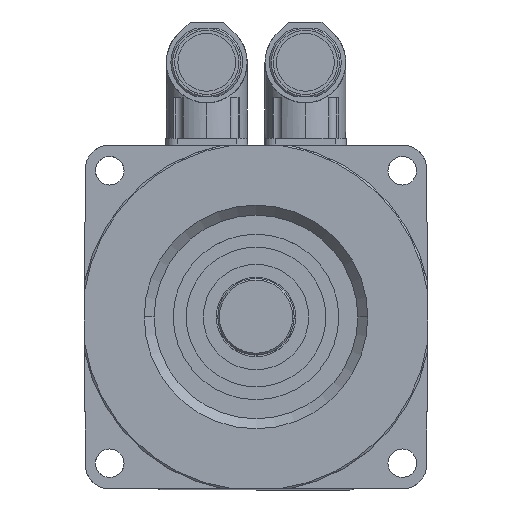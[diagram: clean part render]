
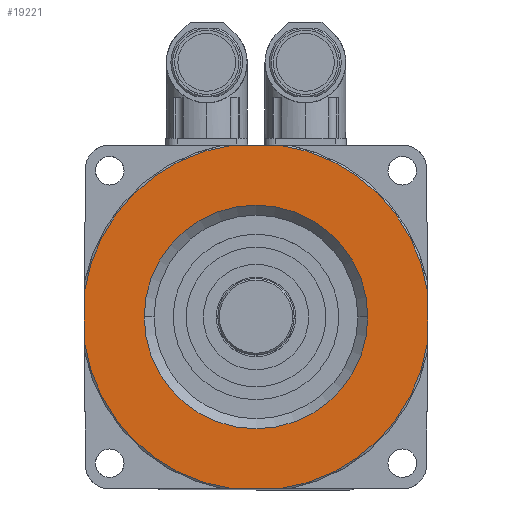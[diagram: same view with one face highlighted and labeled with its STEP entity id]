
A CAD part, top view. The second image highlights one B-rep face of the part: STEP entity #19221.
In plain terms, the highlighted planar face has unit normal (0, 0, 1).
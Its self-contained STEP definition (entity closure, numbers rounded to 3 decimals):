
#8572 = VERTEX_POINT ( 'NONE', #29026 ) ;
#8708 = EDGE_CURVE ( 'NONE', #8572, #8709, #29742, .T. ) ;
#8709 = VERTEX_POINT ( 'NONE', #29734 ) ;
#19166 = ORIENTED_EDGE ( 'NONE', *, *, #19167, .T. ) ;
#19167 = EDGE_CURVE ( 'NONE', #19197, #19198, #20303, .T. ) ;
#19168 = ORIENTED_EDGE ( 'NONE', *, *, #19169, .T. ) ;
#19169 = EDGE_CURVE ( 'NONE', #19198, #19170, #20353, .T. ) ;
#19170 = VERTEX_POINT ( 'NONE', #20348 ) ;
#19171 = ORIENTED_EDGE ( 'NONE', *, *, #19172, .T. ) ;
#19172 = EDGE_CURVE ( 'NONE', #19170, #19173, #20347, .T. ) ;
#19173 = VERTEX_POINT ( 'NONE', #20343 ) ;
#19174 = ORIENTED_EDGE ( 'NONE', *, *, #19175, .T. ) ;
#19175 = EDGE_CURVE ( 'NONE', #19173, #19176, #20341, .T. ) ;
#19176 = VERTEX_POINT ( 'NONE', #20342 ) ;
#19177 = ORIENTED_EDGE ( 'NONE', *, *, #19178, .T. ) ;
#19178 = EDGE_CURVE ( 'NONE', #19176, #19224, #20335, .T. ) ;
#19179 = EDGE_LOOP ( 'NONE', ( #19180, #19201 ) ) ;
#19180 = ORIENTED_EDGE ( 'NONE', *, *, #19200, .F. ) ;
#19193 = EDGE_CURVE ( 'NONE', #19231, #19194, #20361, .T. ) ;
#19194 = VERTEX_POINT ( 'NONE', #20420 ) ;
#19195 = ORIENTED_EDGE ( 'NONE', *, *, #19196, .T. ) ;
#19196 = EDGE_CURVE ( 'NONE', #19194, #19197, #20419, .T. ) ;
#19197 = VERTEX_POINT ( 'NONE', #20415 ) ;
#19198 = VERTEX_POINT ( 'NONE', #20414 ) ;
#19200 = EDGE_CURVE ( 'NONE', #8709, #8572, #20411, .T. ) ;
#19201 = ORIENTED_EDGE ( 'NONE', *, *, #8708, .F. ) ;
#19221 = ADVANCED_FACE ( 'NONE', ( #20447, #20446 ), #20493, .T. ) ;
#19222 = ORIENTED_EDGE ( 'NONE', *, *, #19223, .T. ) ;
#19223 = EDGE_CURVE ( 'NONE', #19224, #19225, #20488, .T. ) ;
#19224 = VERTEX_POINT ( 'NONE', #20484 ) ;
#19225 = VERTEX_POINT ( 'NONE', #20483 ) ;
#19226 = ORIENTED_EDGE ( 'NONE', *, *, #19227, .T. ) ;
#19227 = EDGE_CURVE ( 'NONE', #19225, #19228, #20482, .T. ) ;
#19228 = VERTEX_POINT ( 'NONE', #20477 ) ;
#19229 = ORIENTED_EDGE ( 'NONE', *, *, #19230, .T. ) ;
#19230 = EDGE_CURVE ( 'NONE', #19228, #19231, #20476, .T. ) ;
#19231 = VERTEX_POINT ( 'NONE', #20472 ) ;
#19232 = ORIENTED_EDGE ( 'NONE', *, *, #19193, .T. ) ;
#19247 = EDGE_LOOP ( 'NONE', ( #19222, #19226, #19229, #19232, #19195, #19166, #19168, #19171, #19174, #19177 ) ) ;
#20302 = CARTESIAN_POINT ( 'NONE',  ( -53.983, 0., 1.94 ) ) ;
#20303 = LINE ( 'NONE', #20302, #20355 ) ;
#20332 = DIRECTION ( 'NONE',  ( 0.009, 1., 0. ) ) ;
#20333 = VECTOR ( 'NONE', #20332, 1000. ) ;
#20334 = CARTESIAN_POINT ( 'NONE',  ( 53.512, -54., 1.94 ) ) ;
#20335 = LINE ( 'NONE', #20334, #20333 ) ;
#20337 = DIRECTION ( 'NONE',  ( 1., 0., 0. ) ) ;
#20338 = DIRECTION ( 'NONE',  ( 0., 0., 1. ) ) ;
#20339 = CARTESIAN_POINT ( 'NONE',  ( 0., 0., 1.94 ) ) ;
#20340 = AXIS2_PLACEMENT_3D ( 'NONE', #20339, #20338, #20337 ) ;
#20341 = CIRCLE ( 'NONE', #20340, 54.5 ) ;
#20342 = CARTESIAN_POINT ( 'NONE',  ( 53.913, -7.974, 1.94 ) ) ;
#20343 = CARTESIAN_POINT ( 'NONE',  ( 7.489, -53.983, 1.94 ) ) ;
#20344 = DIRECTION ( 'NONE',  ( 1., 0., 0. ) ) ;
#20345 = VECTOR ( 'NONE', #20344, 1000. ) ;
#20346 = CARTESIAN_POINT ( 'NONE',  ( -53.529, -53.983, 1.94 ) ) ;
#20347 = LINE ( 'NONE', #20346, #20345 ) ;
#20348 = CARTESIAN_POINT ( 'NONE',  ( -7.489, -53.983, 1.94 ) ) ;
#20349 = DIRECTION ( 'NONE',  ( 1., 0., 0. ) ) ;
#20350 = DIRECTION ( 'NONE',  ( 0., 0., 1. ) ) ;
#20351 = CARTESIAN_POINT ( 'NONE',  ( 0., 0., 1.94 ) ) ;
#20352 = AXIS2_PLACEMENT_3D ( 'NONE', #20351, #20350, #20349 ) ;
#20353 = CIRCLE ( 'NONE', #20352, 54.5 ) ;
#20354 = DIRECTION ( 'NONE',  ( 0.009, -1., 0. ) ) ;
#20355 = VECTOR ( 'NONE', #20354, 1000. ) ;
#20357 = DIRECTION ( 'NONE',  ( 1., 0., 0. ) ) ;
#20358 = DIRECTION ( 'NONE',  ( 0., 0., 1. ) ) ;
#20359 = CARTESIAN_POINT ( 'NONE',  ( 0., 0., 1.94 ) ) ;
#20360 = AXIS2_PLACEMENT_3D ( 'NONE', #20359, #20358, #20357 ) ;
#20361 = CIRCLE ( 'NONE', #20360, 54.5 ) ;
#20393 = DIRECTION ( 'NONE',  ( 1., 0., 0. ) ) ;
#20408 = DIRECTION ( 'NONE',  ( 0., 0., 1. ) ) ;
#20409 = CARTESIAN_POINT ( 'NONE',  ( 0., 0., 1.94 ) ) ;
#20410 = AXIS2_PLACEMENT_3D ( 'NONE', #20409, #20408, #20393 ) ;
#20411 = CIRCLE ( 'NONE', #20410, 35.13 ) ;
#20414 = CARTESIAN_POINT ( 'NONE',  ( -53.913, -7.974, 1.94 ) ) ;
#20415 = CARTESIAN_POINT ( 'NONE',  ( -53.983, 0., 1.94 ) ) ;
#20416 = DIRECTION ( 'NONE',  ( -0.009, -1., 0. ) ) ;
#20417 = VECTOR ( 'NONE', #20416, 1000. ) ;
#20418 = CARTESIAN_POINT ( 'NONE',  ( -53.512, 54., 1.94 ) ) ;
#20419 = LINE ( 'NONE', #20418, #20417 ) ;
#20420 = CARTESIAN_POINT ( 'NONE',  ( -53.913, 7.974, 1.94 ) ) ;
#20446 = FACE_BOUND ( 'NONE', #19179, .T. ) ;
#20447 = FACE_OUTER_BOUND ( 'NONE', #19247, .T. ) ;
#20472 = CARTESIAN_POINT ( 'NONE',  ( -7.489, 53.983, 1.94 ) ) ;
#20473 = DIRECTION ( 'NONE',  ( -1., 0., 0. ) ) ;
#20474 = VECTOR ( 'NONE', #20473, 1000. ) ;
#20475 = CARTESIAN_POINT ( 'NONE',  ( 53.529, 53.983, 1.94 ) ) ;
#20476 = LINE ( 'NONE', #20475, #20474 ) ;
#20477 = CARTESIAN_POINT ( 'NONE',  ( 7.489, 53.983, 1.94 ) ) ;
#20478 = DIRECTION ( 'NONE',  ( 1., 0., 0. ) ) ;
#20479 = DIRECTION ( 'NONE',  ( 0., 0., 1. ) ) ;
#20480 = CARTESIAN_POINT ( 'NONE',  ( 0., 0., 1.94 ) ) ;
#20481 = AXIS2_PLACEMENT_3D ( 'NONE', #20480, #20479, #20478 ) ;
#20482 = CIRCLE ( 'NONE', #20481, 54.5 ) ;
#20483 = CARTESIAN_POINT ( 'NONE',  ( 53.913, 7.974, 1.94 ) ) ;
#20484 = CARTESIAN_POINT ( 'NONE',  ( 53.983, 0., 1.94 ) ) ;
#20485 = DIRECTION ( 'NONE',  ( -0.009, 1., 0. ) ) ;
#20486 = VECTOR ( 'NONE', #20485, 1000. ) ;
#20487 = CARTESIAN_POINT ( 'NONE',  ( 53.983, 0., 1.94 ) ) ;
#20488 = LINE ( 'NONE', #20487, #20486 ) ;
#20489 = DIRECTION ( 'NONE',  ( 1., 0., 0. ) ) ;
#20490 = DIRECTION ( 'NONE',  ( 0., 0., 1. ) ) ;
#20491 = CARTESIAN_POINT ( 'NONE',  ( 0., 26.182, 1.94 ) ) ;
#20492 = AXIS2_PLACEMENT_3D ( 'NONE', #20491, #20490, #20489 ) ;
#20493 = PLANE ( 'NONE',  #20492 ) ;
#29026 = CARTESIAN_POINT ( 'NONE',  ( -35.13, 0., 1.94 ) ) ;
#29734 = CARTESIAN_POINT ( 'NONE',  ( 35.13, 0., 1.94 ) ) ;
#29735 = DIRECTION ( 'NONE',  ( 1., 0., 0. ) ) ;
#29737 = DIRECTION ( 'NONE',  ( 0., 0., 1. ) ) ;
#29739 = CARTESIAN_POINT ( 'NONE',  ( 0., 0., 1.94 ) ) ;
#29740 = AXIS2_PLACEMENT_3D ( 'NONE', #29739, #29737, #29735 ) ;
#29742 = CIRCLE ( 'NONE', #29740, 35.13 ) ;
